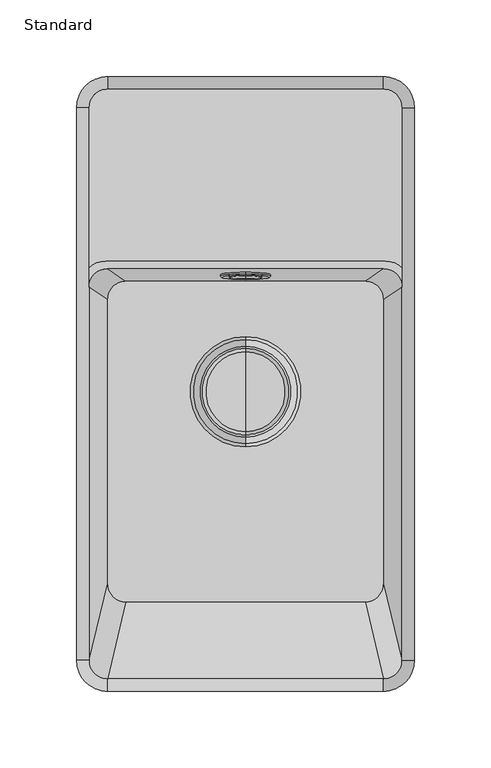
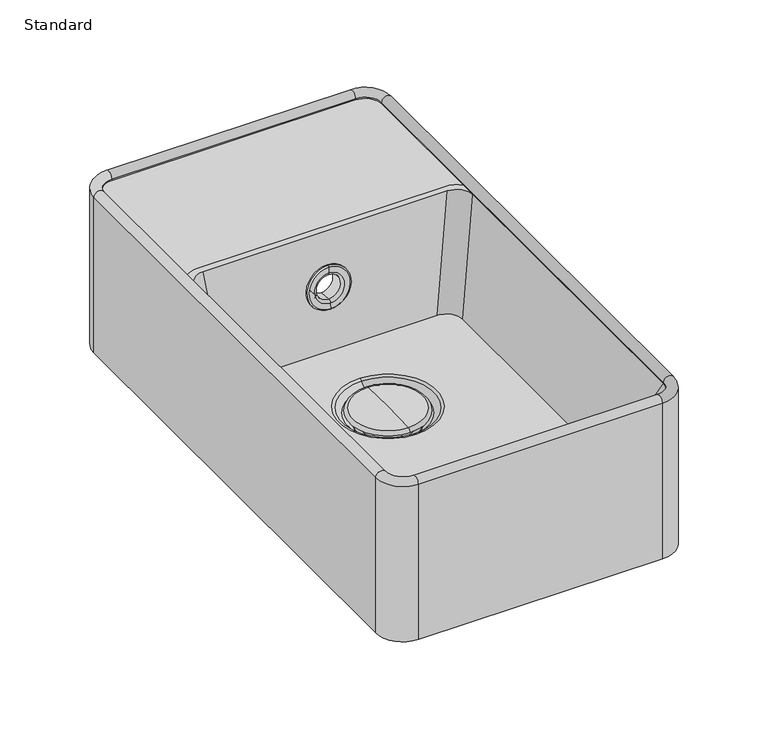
"""IFC4 building model written with IfcOpenShell, lengths in millimetres: flow terminal geometry, Basin-Above Counter-Duracube-Rectangular-Type 1 : Standard."""

from ifc_helpers import new_model, si_unit, point, frame, origin, place, context, project, spatial, polyline, circle_curve, ellipse_curve, trimmed, source, transform, mapped, element, save
from ifc_brep_helpers import plane_surface, cylinder_surface, revolved_surface, extruded_surface, advanced_brep


def standard_62b3b199(model_context):
    return source(origin(), model_context, "Body", "AdvancedBrep", [
        advanced_brep(
        [(0.0, -15.2373706, 28.6616307), (0.0, 20.2373706, 28.6616307), (0.0, 20.2373706, 17.6329977), (0.0, -15.2373706, 17.6329977), (0.0, 2.5, 17.6329977), (0.0, -25.616346, 28.6616307), (0.0, 30.616346, 28.6616307), (0.0, -23.5200947, 31.0780655), (0.0, 28.5200947, 31.0780655), (0.0, 2.5, 31.9999936)],
        [
            (0, 1, circle_curve(frame((0.0, 2.5, 28.6616307), z_axis=(0.0, 0.0, -1.0), x_axis=(0.0, 1.0, 0.0)), 17.7373706)),
            (1, 2),
            (2, 3, circle_curve(frame((0.0, 2.5, 17.6329977), z_axis=(0.0, 0.0, 1.0), x_axis=(0.0, 1.0, 0.0)), 17.7373706)),
            (3, 0),
            (1, 0, circle_curve(frame((0.0, 2.5, 28.6616307), z_axis=(0.0, 0.0, -1.0), x_axis=(0.0, 1.0, 0.0)), 17.7373706)),
            (3, 2, circle_curve(frame((0.0, 2.5, 17.6329977), z_axis=(0.0, 0.0, 1.0), x_axis=(0.0, 1.0, 0.0)), 17.7373706)),
            (2, 4),
            (4, 3),
            (5, 6, circle_curve(frame((0.0, 2.5, 28.6616307), z_axis=(0.0, 0.0, -1.0), x_axis=(0.0, 1.0, 0.0)), 28.116346)),
            (6, 1),
            (0, 5),
            (6, 5, circle_curve(frame((0.0, 2.5, 28.6616307), z_axis=(0.0, 0.0, -1.0), x_axis=(0.0, 1.0, 0.0)), 28.116346)),
            (7, 8, circle_curve(frame((0.0, 2.5, 31.0780655), z_axis=(0.0, 0.0, -1.0), x_axis=(0.0, 1.0, 0.0)), 26.0200947)),
            (8, 6, circle_curve(frame((0.0, 28.3600029, 28.8217224), z_axis=(-1.0, 0.0, 0.0), x_axis=(0.0, 1.0, 0.0)), 2.2620154)),
            (5, 7, circle_curve(frame((0.0, -23.3600029, 28.8217224), z_axis=(-1.0, 0.0, 0.0), x_axis=(0.0, -1.0, 0.0)), 2.2620154)),
            (8, 7, circle_curve(frame((0.0, 2.5, 31.0780655), z_axis=(0.0, 0.0, -1.0), x_axis=(0.0, 1.0, 0.0)), 26.0200947)),
            (9, 8, circle_curve(frame((0.0, 2.5, -335.6508477), z_axis=(-1.0, 0.0, 0.0), x_axis=(0.0, 1.0, 0.0)), 367.6508413)),
            (7, 9, circle_curve(frame((0.0, 2.5, -335.6508477), z_axis=(-1.0, 0.0, 0.0), x_axis=(0.0, -1.0, 0.0)), 367.6508413)),
        ],
        [
            cylinder_surface(frame((0.0, 2.5, 17.6329977), z_axis=(0.0, 0.0, 1.0), x_axis=(0.0, 1.0, 0.0)), 17.7373706),
            plane_surface(frame((0.0, 2.5, 17.6329977), z_axis=(0.0, 0.0, -1.0), x_axis=(0.0, 1.0, 0.0))),
            plane_surface(frame((0.0, 2.5, 28.6616307), z_axis=(0.0, 0.0, -1.0), x_axis=(0.0, 1.0, 0.0))),
            revolved_surface(trimmed(ellipse_curve(frame((0.0, 28.3600029, 28.8217224), z_axis=(1.0, 0.0, 0.0), x_axis=(0.0, 1.0, 0.0)), 2.2620154, 2.2620154), [point((0.0, 30.616346, 28.6616307))], [point((0.0, 28.5200947, 31.0780655))], True, "CARTESIAN"), (0.0, 2.5, 17.6329977), (0.0, 0.0, 1.0)),
            revolved_surface(trimmed(ellipse_curve(frame((0.0, 2.5, -335.6508477), z_axis=(1.0, 0.0, 0.0), x_axis=(0.0, 1.0, 0.0)), 367.6508413, 367.6508413), [point((0.0, 28.5200947, 31.0780655))], [point((0.0, 2.5, 31.9999936))], True, "CARTESIAN"), (0.0, 2.5, 17.6329977), (0.0, 0.0, 1.0)),
        ],
        [
            (0, [[1, 2, 3, 4]]),
            (0, [[5, -4, 6, -2]]),
            (1, [[-3, 7, 8]]),
            (1, [[-6, -8, -7]]),
            (2, [[9, 10, -1, 11]]),
            (2, [[12, -11, -5, -10]]),
            (3, [[13, 14, -9, 15]]),
            (3, [[16, -15, -12, -14]]),
            (4, [[17, -13, 18]]),
            (4, [[-18, -16, -17]]),
        ],
    ),
        advanced_brep(
        [(0.0, 87.5904727, 66.668558), (0.0, 89.6713533, 89.5582459), (0.0, 89.4658033, 87.2971962), (0.0, 87.7960227, 68.9296077), (0.0, 77.7331529, 67.5646779), (0.0, 79.8140335, 90.4543658), (0.0, 77.2994827, 62.7943059), (0.0, 80.2477036, 95.2247379), (0.0, 76.3688867, 62.8789055), (0.0, 79.3171076, 95.3093375), (0.0, 75.5276448, 63.9464003), (0.0, 78.2971575, 94.411042), (0.0, 75.8964393, 68.0031405), (0.0, 77.9283629, 90.3543018), (0.0, 78.0692972, 69.8138554), (0.0, 79.7390779, 88.1814439)],
        [
            (0, 1, circle_curve(frame((0.0, 88.630913, 78.1134019), z_axis=(0.0, 0.9958932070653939, -0.09053573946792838), x_axis=(0.0, 0.09053573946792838, 0.9958932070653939)), 11.4920394)),
            (1, 2),
            (2, 3, circle_curve(frame((0.0, 88.630913, 78.1134019), z_axis=(0.0, -0.9958932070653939, 0.09053573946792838), x_axis=(0.0, 0.09053573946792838, 0.9958932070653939)), 9.2216657)),
            (3, 0),
            (1, 0, circle_curve(frame((0.0, 88.630913, 78.1134019), z_axis=(0.0, 0.9958932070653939, -0.09053573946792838), x_axis=(0.0, 0.09053573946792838, 0.9958932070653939)), 11.4920394)),
            (3, 2, circle_curve(frame((0.0, 88.630913, 78.1134019), z_axis=(0.0, -0.9958932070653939, 0.09053573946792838), x_axis=(0.0, 0.09053573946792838, 0.9958932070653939)), 9.2216657)),
            (4, 5, circle_curve(frame((0.0, 78.7735932, 79.0095219), z_axis=(0.0, 0.9958932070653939, -0.09053573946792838), x_axis=(0.0, 0.09053573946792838, 0.9958932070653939)), 11.4920394)),
            (5, 1),
            (0, 4),
            (5, 4, circle_curve(frame((0.0, 78.7735932, 79.0095219), z_axis=(0.0, 0.9958932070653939, -0.09053573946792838), x_axis=(0.0, 0.09053573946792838, 0.9958932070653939)), 11.4920394)),
            (6, 7, circle_curve(frame((0.0, 78.7735932, 79.0095219), z_axis=(0.0, 0.9958932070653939, -0.09053573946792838), x_axis=(0.0, 0.09053573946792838, 0.9958932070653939)), 16.2820831)),
            (7, 5),
            (4, 6),
            (7, 6, circle_curve(frame((0.0, 78.7735932, 79.0095219), z_axis=(0.0, 0.9958932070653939, -0.09053573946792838), x_axis=(0.0, 0.09053573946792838, 0.9958932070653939)), 16.2820831)),
            (8, 9, circle_curve(frame((0.0, 77.8429971, 79.0941215), z_axis=(0.0, 0.9958932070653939, -0.09053573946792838), x_axis=(0.0, 0.09053573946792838, 0.9958932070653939)), 16.2820831)),
            (9, 7),
            (6, 8),
            (9, 8, circle_curve(frame((0.0, 77.8429971, 79.0941215), z_axis=(0.0, 0.9958932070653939, -0.09053573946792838), x_axis=(0.0, 0.09053573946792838, 0.9958932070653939)), 16.2820831)),
            (10, 11, circle_curve(frame((0.0, 76.9124011, 79.1787211), z_axis=(0.0, 0.9958932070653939, -0.09053573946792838), x_axis=(0.0, 0.09053573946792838, 0.9958932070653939)), 15.2951348)),
            (11, 9),
            (8, 10),
            (11, 10, circle_curve(frame((0.0, 76.9124011, 79.1787211), z_axis=(0.0, 0.9958932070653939, -0.09053573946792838), x_axis=(0.0, 0.09053573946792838, 0.9958932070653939)), 15.2951348)),
            (12, 13, circle_curve(frame((0.0, 76.9124011, 79.1787211), z_axis=(0.0, 0.9958932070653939, -0.09053573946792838), x_axis=(0.0, 0.09053573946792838, 0.9958932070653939)), 11.2216657)),
            (13, 11),
            (10, 12),
            (13, 12, circle_curve(frame((0.0, 76.9124011, 79.1787211), z_axis=(0.0, 0.9958932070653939, -0.09053573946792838), x_axis=(0.0, 0.09053573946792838, 0.9958932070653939)), 11.2216657)),
            (14, 15, circle_curve(frame((0.0, 78.9041875, 78.9976497), z_axis=(0.0, 0.9958932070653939, -0.09053573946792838), x_axis=(0.0, 0.09053573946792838, 0.9958932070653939)), 9.2216657)),
            (15, 13, circle_curve(frame((0.0, 79.9201493, 90.1732303), z_axis=(-1.0, 0.0, 0.0), x_axis=(0.0, 0.999287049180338, 0.0377543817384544)), 2.0)),
            (12, 14, circle_curve(frame((0.0, 77.8882257, 67.822069), z_axis=(-1.0, 0.0, 0.0), x_axis=(0.0, 0.9760971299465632, -0.21733474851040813)), 2.0)),
            (15, 14, circle_curve(frame((0.0, 78.9041875, 78.9976497), z_axis=(0.0, 0.9958932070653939, -0.09053573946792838), x_axis=(0.0, 0.09053573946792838, 0.9958932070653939)), 9.2216657)),
            (2, 15),
            (14, 3),
        ],
        [
            plane_surface(frame((0.0, 88.630913, 78.1134019), z_axis=(0.0, 0.9958932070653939, -0.09053573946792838), x_axis=(0.0, 0.09053573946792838, 0.9958932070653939))),
            cylinder_surface(frame((0.0, 87.1166876, 78.2510588), z_axis=(0.0, -0.9958932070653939, 0.09053573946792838), x_axis=(0.0, 0.09053573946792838, 0.9958932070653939)), 11.4920394),
            plane_surface(frame((0.0, 78.7735932, 79.0095219), z_axis=(0.0, 0.9958932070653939, -0.09053573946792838), x_axis=(0.0, 0.09053573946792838, 0.9958932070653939))),
            cylinder_surface(frame((0.0, 87.1166876, 78.2510588), z_axis=(0.0, -0.9958932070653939, 0.09053573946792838), x_axis=(0.0, 0.09053573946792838, 0.9958932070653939)), 16.2820831),
            revolved_surface(polyline([(0.0, 79.3171076, 95.3093375), (0.0, 78.2971575, 94.411042)]), (0.0, 87.1166876, 78.2510588), (0.0, -0.9958932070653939, 0.09053573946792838)),
            plane_surface(frame((0.0, 76.9124011, 79.1787211), z_axis=(0.0, -0.9958932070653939, 0.09053573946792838), x_axis=(0.0, 0.09053573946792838, 0.9958932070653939))),
            revolved_surface(trimmed(ellipse_curve(frame((0.0, 79.9201493, 90.1732303), z_axis=(1.0, 0.0, 0.0), x_axis=(0.0, 0.999287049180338, 0.0377543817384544)), 2.0, 2.0), [point((0.0, 77.9283629, 90.3543018))], [point((0.0, 79.7390779, 88.1814439))], True, "CARTESIAN"), (0.0, 87.1166876, 78.2510588), (0.0, -0.9958932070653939, 0.09053573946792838)),
            revolved_surface(polyline([(0.0, 79.73907781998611, 88.18144389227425), (0.0, 89.46580334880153, 87.29719618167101)]), (0.0, 87.1166876, 78.2510588), (0.0, -0.9958932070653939, 0.09053573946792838)),
        ],
        [
            (0, [[1, 2, 3, 4]]),
            (0, [[5, -4, 6, -2]]),
            (1, [[7, 8, -1, 9]]),
            (1, [[10, -9, -5, -8]]),
            (2, [[11, 12, -7, 13]]),
            (2, [[14, -13, -10, -12]]),
            (3, [[15, 16, -11, 17]]),
            (3, [[18, -17, -14, -16]]),
            (4, [[19, 20, -15, 21]]),
            (4, [[22, -21, -18, -20]]),
            (5, [[23, 24, -19, 25]]),
            (5, [[26, -25, -22, -24]]),
            (6, [[27, 28, -23, 29]]),
            (6, [[30, -29, -26, -28]]),
            (7, [[-3, 31, -27, 32]]),
            (7, [[-6, -32, -30, -31]]),
        ],
    ),
        advanced_brep(
        [(-90.0, -122.5, 31.9999936), (-102.0, -172.5, 120.0), (-90.0, -184.5, 120.0), (-78.0, -134.5, 31.9999936), (90.0, -184.5, 120.0), (78.0, -134.5, 31.9999936), (102.0, -172.5, 120.0), (90.0, -122.5, 31.9999936), (102.0, 70.5, 120.0), (90.0, 62.5, 31.9999936), (-90.0, 62.5, 31.9999936), (-102.0, 70.5, 120.0), (90.0, 82.5, 120.0), (78.0, 74.5, 31.9999936), (-90.0, 82.5, 120.0), (-78.0, 74.5, 31.9999936), (0.0, 77.9387028, 69.8257276), (0.0, 79.6084835, 88.1933161), (-107.0462735, -174.2507185, 120.0), (-91.0462735, -190.2507185, 120.0), (91.0462735, -190.2507185, 120.0), (107.0462735, -174.2507185, 120.0), (107.0462735, 71.5206186, 120.0), (91.0462735, 87.5206186, 120.0), (-91.0462735, 87.5206186, 120.0), (-107.0462735, 71.5206186, 120.0), (-95.0462735, -124.2507185, 31.9999936), (-95.0462735, 63.5206186, 31.9999936), (-79.0462735, 79.5206186, 31.9999936), (79.0462735, 79.5206186, 31.9999936), (95.0462735, 63.5206186, 31.9999936), (95.0462735, -124.2507185, 31.9999936), (79.0462735, -140.2507185, 31.9999936), (-79.0462735, -140.2507185, 31.9999936), (0.0, 84.5879495, 87.7406374), (0.0, 82.9181689, 69.3730489)],
        [
            (0, 1),
            (1, 2, circle_curve(frame((-90.0, -172.5, 120.0), z_axis=(0.0, 0.0, 1.0), x_axis=(1.0, 0.0, 0.0)), 12.0)),
            (2, 3),
            (3, 0, circle_curve(frame((-78.0, -122.5, 31.9999936), z_axis=(0.0, 0.0, -1.0), x_axis=(1.0, 0.0, 0.0)), 12.0)),
            (2, 4),
            (4, 5),
            (5, 3),
            (4, 6, circle_curve(frame((90.0, -172.5, 120.0), z_axis=(0.0, 0.0, 1.0), x_axis=(1.0, 0.0, 0.0)), 12.0)),
            (6, 7),
            (7, 5, circle_curve(frame((78.0, -122.5, 31.9999936), z_axis=(0.0, 0.0, -1.0), x_axis=(1.0, 0.0, 0.0)), 12.0)),
            (6, 8),
            (8, 9),
            (9, 7),
            (0, 10),
            (10, 11),
            (11, 1),
            (8, 12, circle_curve(frame((90.0, 70.5, 120.0), z_axis=(0.0, 0.0, 1.0), x_axis=(1.0, 0.0, 0.0)), 12.0)),
            (12, 13),
            (13, 9, circle_curve(frame((78.0, 62.5, 31.9999936), z_axis=(0.0, 0.0, -1.0), x_axis=(1.0, 0.0, 0.0)), 12.0)),
            (12, 14),
            (14, 15),
            (15, 13),
            (16, 17, circle_curve(frame((0.0, 78.7735932, 79.0095219), z_axis=(0.0, 0.9958932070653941, -0.09053573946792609), x_axis=(0.0, 0.09053573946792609, 0.9958932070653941)), 9.2216657)),
            (17, 16, circle_curve(frame((0.0, 78.7735932, 79.0095219), z_axis=(0.0, 0.9958932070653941, -0.09053573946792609), x_axis=(0.0, 0.09053573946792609, 0.9958932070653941)), 9.2216657)),
            (10, 15, circle_curve(frame((-78.0, 62.5, 31.9999936), z_axis=(0.0, 0.0, -1.0), x_axis=(1.0, 0.0, 0.0)), 12.0)),
            (14, 11, circle_curve(frame((-90.0, 70.5, 120.0), z_axis=(0.0, 0.0, 1.0), x_axis=(1.0, 0.0, 0.0)), 12.0)),
            (18, 19, circle_curve(frame((-91.0462735, -174.2507185, 120.0), z_axis=(0.0, 0.0, 1.0), x_axis=(1.0, 0.0, 0.0)), 16.0)),
            (19, 20),
            (20, 21, circle_curve(frame((91.0462735, -174.2507185, 120.0), z_axis=(0.0, 0.0, 1.0), x_axis=(1.0, 0.0, 0.0)), 16.0)),
            (21, 22),
            (22, 23, circle_curve(frame((91.0462735, 71.5206186, 120.0), z_axis=(0.0, 0.0, 1.0), x_axis=(1.0, 0.0, 0.0)), 16.0)),
            (23, 24),
            (24, 25, circle_curve(frame((-91.0462735, 71.5206186, 120.0), z_axis=(0.0, 0.0, 1.0), x_axis=(1.0, 0.0, 0.0)), 16.0)),
            (25, 18),
            (26, 27),
            (27, 28, circle_curve(frame((-79.0462735, 63.5206186, 31.9999936), z_axis=(0.0, 0.0, -1.0), x_axis=(1.0, 0.0, 0.0)), 16.0)),
            (28, 29),
            (29, 30, circle_curve(frame((79.0462735, 63.5206186, 31.9999936), z_axis=(0.0, 0.0, -1.0), x_axis=(1.0, 0.0, 0.0)), 16.0)),
            (30, 31),
            (31, 32, circle_curve(frame((79.0462735, -124.2507185, 31.9999936), z_axis=(0.0, 0.0, -1.0), x_axis=(1.0, 0.0, 0.0)), 16.0)),
            (32, 33),
            (33, 26, circle_curve(frame((-79.0462735, -124.2507185, 31.9999936), z_axis=(0.0, 0.0, -1.0), x_axis=(1.0, 0.0, 0.0)), 16.0)),
            (18, 26),
            (33, 19),
            (32, 20),
            (31, 21),
            (30, 22),
            (25, 27),
            (29, 23),
            (28, 24),
            (34, 35, circle_curve(frame((0.0, 83.7530592, 78.5568432), z_axis=(0.0, -0.9958932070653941, 0.09053573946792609), x_axis=(0.0, 0.09053573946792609, 0.9958932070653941)), 9.2216657)),
            (35, 34, circle_curve(frame((0.0, 83.7530592, 78.5568432), z_axis=(0.0, -0.9958932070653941, 0.09053573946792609), x_axis=(0.0, 0.09053573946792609, 0.9958932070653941)), 9.2216657)),
            (16, 35),
            (34, 17),
        ],
        [
            extruded_surface(trimmed(circle_curve(frame((-90.0, -172.5, 120.0), z_axis=(0.0, 0.0, 1.0), x_axis=(1.0, 0.0, 0.0)), 12.0), [point((-102.0, -172.5, 120.0))], [point((-90.0, -184.5, 120.0))], True, "CARTESIAN"), (12.0, 50.0, -88.0000064), 101.92154397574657),
            plane_surface(frame((0.0, -134.5, 31.9999936), z_axis=(0.0, 0.8694565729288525, 0.49400938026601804), x_axis=(1.0, 0.0, 0.0))),
            extruded_surface(trimmed(circle_curve(frame((90.0, -172.5, 120.0), z_axis=(0.0, 0.0, 1.0), x_axis=(1.0, 0.0, 0.0)), 12.0), [point((90.0, -184.5, 120.0))], [point((102.0, -172.5, 120.0))], True, "CARTESIAN"), (-12.0, 50.0, -88.0000064), 101.92154397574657),
            plane_surface(frame((90.0, -30.0, 31.9999936), z_axis=(-0.9908301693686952, 0.0, 0.1351131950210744), x_axis=(0.0, 1.0, 0.0))),
            plane_surface(frame((-90.0, -30.0, 31.9999936), z_axis=(0.9908301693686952, 0.0, 0.1351131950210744), x_axis=(0.0, -1.0, 0.0))),
            extruded_surface(trimmed(circle_curve(frame((90.0, 70.5, 120.0), z_axis=(0.0, 0.0, 1.0), x_axis=(1.0, 0.0, 0.0)), 12.0), [point((102.0, 70.5, 120.0))], [point((90.0, 82.5, 120.0))], True, "CARTESIAN"), (-12.0, -8.0, -88.0000064), 89.17399355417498),
            plane_surface(frame((0.0, 74.5, 31.9999936), z_axis=(0.0, -0.9958932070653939, 0.09053573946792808), x_axis=(-1.0, 0.0, 0.0))),
            extruded_surface(trimmed(circle_curve(frame((-90.0, 70.5, 120.0), z_axis=(0.0, 0.0, 1.0), x_axis=(1.0, 0.0, 0.0)), 12.0), [point((-90.0, 82.5, 120.0))], [point((-102.0, 70.5, 120.0))], True, "CARTESIAN"), (12.0, -8.0, -88.0000064), 89.17399355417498),
            plane_surface(frame((0.0, -51.3650499, 120.0), z_axis=(0.0, 0.0, 1.0), x_axis=(0.0, -1.0, 0.0))),
            plane_surface(frame((0.0, -30.3650499, 31.9999936), z_axis=(0.0, 0.0, -1.0), x_axis=(0.0, -1.0, 0.0))),
            extruded_surface(trimmed(circle_curve(frame((-79.0462735, -124.2507185, 31.9999936), z_axis=(0.0, 0.0, 1.0), x_axis=(1.0, 0.0, 0.0)), 16.0), [point((-95.0462735, -124.2507185, 31.9999936))], [point((-79.0462735, -140.2507185, 31.9999936))], True, "CARTESIAN"), (-12.0, -50.0, 88.0000064), 101.92154397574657),
            plane_surface(frame((0.0, -140.2507185, 31.9999936), z_axis=(0.0, -0.8694565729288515, -0.49400938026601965), x_axis=(1.0, 0.0, 0.0))),
            extruded_surface(trimmed(circle_curve(frame((79.0462735, -124.2507185, 31.9999936), z_axis=(0.0, 0.0, 1.0), x_axis=(1.0, 0.0, 0.0)), 16.0), [point((79.0462735, -140.2507185, 31.9999936))], [point((95.0462735, -124.2507185, 31.9999936))], True, "CARTESIAN"), (12.0, -50.0, 88.0000064), 101.92154397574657),
            plane_surface(frame((95.0462735, -30.3650499, 31.9999936), z_axis=(0.990830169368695, 0.0, -0.13511319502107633), x_axis=(0.0, 1.0, 0.0))),
            plane_surface(frame((-95.0462735, -30.3650499, 31.9999936), z_axis=(-0.9908301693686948, 0.0, -0.13511319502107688), x_axis=(0.0, -1.0, 0.0))),
            extruded_surface(trimmed(circle_curve(frame((79.0462735, 63.5206186, 31.9999936), z_axis=(0.0, 0.0, 1.0), x_axis=(1.0, 0.0, 0.0)), 16.0), [point((95.0462735, 63.5206186, 31.9999936))], [point((79.0462735, 79.5206186, 31.9999936))], True, "CARTESIAN"), (12.0, 8.000000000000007, 88.0000064), 89.17399355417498),
            plane_surface(frame((0.0, 79.5206186, 31.9999936), z_axis=(0.0, 0.9958932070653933, -0.09053573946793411), x_axis=(-1.0, 0.0, 0.0))),
            extruded_surface(trimmed(circle_curve(frame((-79.0462735, 63.5206186, 31.9999936), z_axis=(0.0, 0.0, 1.0), x_axis=(1.0, 0.0, 0.0)), 16.0), [point((-79.0462735, 79.5206186, 31.9999936))], [point((-95.0462735, 63.5206186, 31.9999936))], True, "CARTESIAN"), (-12.0, 8.000000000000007, 88.0000064), 89.17399355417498),
            revolved_surface(polyline([(0.0, 79.60848344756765, 88.19331606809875), (0.0, 84.58794954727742, 87.74063736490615)]), (0.0, 92.9729171, 77.7186743), (0.0, -0.9958932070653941, 0.09053573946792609)),
        ],
        [
            (0, [[1, 2, 3, 4]]),
            (1, [[-3, 5, 6, 7]]),
            (2, [[-6, 8, 9, 10]]),
            (3, [[-9, 11, 12, 13]]),
            (4, [[-1, 14, 15, 16]]),
            (5, [[-12, 17, 18, 19]]),
            (6, [[-18, 20, 21, 22], [23, 24]]),
            (7, [[-15, 25, -21, 26]]),
            (8, [[27, 28, 29, 30, 31, 32, 33, 34], [-2, -16, -26, -20, -17, -11, -8, -5]]),
            (9, [[35, 36, 37, 38, 39, 40, 41, 42], [-4, -7, -10, -13, -19, -22, -25, -14]]),
            (10, [[-27, 43, -42, 44]]),
            (11, [[-28, -44, -41, 45]]),
            (12, [[-29, -45, -40, 46]]),
            (13, [[-30, -46, -39, 47]]),
            (14, [[-34, 48, -35, -43]]),
            (15, [[-31, -47, -38, 49]]),
            (16, [[-32, -49, -37, 50], [51, 52]]),
            (17, [[-33, -50, -36, -48]]),
            (18, [[53, -51, 54, -23]]),
            (18, [[-53, -24, -54, -52]]),
        ],
    ),
        advanced_brep(
        [(79.0462735, 79.5206186, 31.9999936), (-79.0462735, 79.5206186, 31.9999936), (-95.0462735, 63.5206186, 31.9999936), (-95.0462735, -124.2507185, 31.9999936), (-79.0462735, -140.2507185, 31.9999936), (79.0462735, -140.2507185, 31.9999936), (95.0462735, -124.2507185, 31.9999936), (95.0462735, 63.5206186, 31.9999936), (0.0, -33.4176724, 31.9999936), (0.0, 38.4176724, 31.9999936), (78.3644553, 79.0660732, 26.9999936), (94.3644553, 63.0660732, 26.9999936), (94.3644553, -121.4098096, 26.9999936), (78.3644553, -137.4098096, 26.9999936), (-78.3644553, -137.4098096, 26.9999936), (-94.3644553, -121.4098096, 26.9999936), (-94.3644553, 63.0660732, 26.9999936), (-78.3644553, 79.0660732, 26.9999936), (0.0, 39.2460996, 26.9999936), (0.0, -34.2460996, 26.9999936), (0.0, 36.2963521, 31.1213139), (0.0, -31.2963521, 31.1213139), (0.0, -27.1750317, 26.9999936), (0.0, 32.1750317, 26.9999936), (0.0, -24.5009361, 17.2548301), (0.0, 29.5009361, 17.2548301), (0.0, 29.5009361, -8.6750358), (0.0, -24.5009361, -8.6750358), (0.0, -21.1005425, 20.9255043), (0.0, 26.1005425, 20.9255043), (0.0, -19.5009361, 17.0637129), (0.0, 24.5009361, 17.0637129), (0.0, -19.5009361, -8.6750358), (0.0, 24.5009361, -8.6750358)],
        [
            (0, 1),
            (1, 2, circle_curve(frame((-79.0462735, 63.5206186, 31.9999936), z_axis=(0.0, 0.0, 1.0), x_axis=(1.0, 0.0, 0.0)), 16.0)),
            (2, 3),
            (3, 4, circle_curve(frame((-79.0462735, -124.2507185, 31.9999936), z_axis=(0.0, 0.0, 1.0), x_axis=(1.0, 0.0, 0.0)), 16.0)),
            (4, 5),
            (5, 6, circle_curve(frame((79.0462735, -124.2507185, 31.9999936), z_axis=(0.0, 0.0, 1.0), x_axis=(1.0, 0.0, 0.0)), 16.0)),
            (6, 7),
            (7, 0, circle_curve(frame((79.0462735, 63.5206186, 31.9999936), z_axis=(0.0, 0.0, 1.0), x_axis=(1.0, 0.0, 0.0)), 16.0)),
            (8, 9, circle_curve(frame((0.0, 2.5, 31.9999936), z_axis=(0.0, 0.0, -1.0), x_axis=(0.0, 1.0, 0.0)), 35.9176724)),
            (9, 8, circle_curve(frame((0.0, 2.5, 31.9999936), z_axis=(0.0, 0.0, -1.0), x_axis=(0.0, 1.0, 0.0)), 35.9176724)),
            (10, 11, circle_curve(frame((78.3644553, 63.0660732, 26.9999936), z_axis=(0.0, 0.0, -1.0), x_axis=(1.0, 0.0, 0.0)), 16.0)),
            (11, 12),
            (12, 13, circle_curve(frame((78.3644553, -121.4098096, 26.9999936), z_axis=(0.0, 0.0, -1.0), x_axis=(1.0, 0.0, 0.0)), 16.0)),
            (13, 14),
            (14, 15, circle_curve(frame((-78.3644553, -121.4098096, 26.9999936), z_axis=(0.0, 0.0, -1.0), x_axis=(1.0, 0.0, 0.0)), 16.0)),
            (15, 16),
            (16, 17, circle_curve(frame((-78.3644553, 63.0660732, 26.9999936), z_axis=(0.0, 0.0, -1.0), x_axis=(1.0, 0.0, 0.0)), 16.0)),
            (17, 10),
            (18, 19, circle_curve(frame((0.0, 2.5, 26.9999936), z_axis=(0.0, 0.0, 1.0), x_axis=(0.0, 1.0, 0.0)), 36.7460996)),
            (19, 18, circle_curve(frame((0.0, 2.5, 26.9999936), z_axis=(0.0, 0.0, 1.0), x_axis=(0.0, 1.0, 0.0)), 36.7460996)),
            (0, 10),
            (17, 1),
            (16, 2),
            (15, 3),
            (14, 4),
            (13, 5),
            (12, 6),
            (11, 7),
            (20, 21, circle_curve(frame((0.0, 2.5, 31.1213139), z_axis=(0.0, 0.0, 1.0), x_axis=(0.0, 1.0, 0.0)), 33.7963521)),
            (21, 22),
            (22, 23, circle_curve(frame((0.0, 2.5, 26.9999936), z_axis=(0.0, 0.0, -1.0), x_axis=(0.0, 1.0, 0.0)), 29.6750317)),
            (23, 20),
            (21, 20, circle_curve(frame((0.0, 2.5, 31.1213139), z_axis=(0.0, 0.0, 1.0), x_axis=(0.0, 1.0, 0.0)), 33.7963521)),
            (23, 22, circle_curve(frame((0.0, 2.5, 26.9999936), z_axis=(0.0, 0.0, -1.0), x_axis=(0.0, 1.0, 0.0)), 29.6750317)),
            (20, 9, circle_curve(frame((0.0, 38.4176724, 28.9999936), z_axis=(-1.0, 0.0, 0.0), x_axis=(0.0, 1.0, 0.0)), 3.0)),
            (8, 21, circle_curve(frame((0.0, -33.4176724, 28.9999936), z_axis=(-1.0, 0.0, 0.0), x_axis=(0.0, -1.0, 0.0)), 3.0)),
            (24, 25, circle_curve(frame((0.0, 2.5, 17.2548301), z_axis=(0.0, 0.0, -1.0), x_axis=(0.0, 1.0, 0.0)), 27.0009361)),
            (25, 26),
            (26, 27, circle_curve(frame((0.0, 2.5, -8.6750358), z_axis=(0.0, 0.0, 1.0), x_axis=(0.0, 1.0, 0.0)), 27.0009361)),
            (27, 24),
            (25, 24, circle_curve(frame((0.0, 2.5, 17.2548301), z_axis=(0.0, 0.0, -1.0), x_axis=(0.0, 1.0, 0.0)), 27.0009361)),
            (27, 26, circle_curve(frame((0.0, 2.5, -8.6750358), z_axis=(0.0, 0.0, 1.0), x_axis=(0.0, 1.0, 0.0)), 27.0009361)),
            (24, 19),
            (18, 25),
            (28, 29, circle_curve(frame((0.0, 2.5, 20.9255043), z_axis=(0.0, 0.0, -1.0), x_axis=(0.0, 1.0, 0.0)), 23.6005425)),
            (29, 23),
            (22, 28),
            (29, 28, circle_curve(frame((0.0, 2.5, 20.9255043), z_axis=(0.0, 0.0, -1.0), x_axis=(0.0, 1.0, 0.0)), 23.6005425)),
            (28, 30, circle_curve(frame((0.0, -24.9623339, 17.0637129), z_axis=(-1.0, 0.0, 0.0), x_axis=(0.0, -1.0, 0.0)), 5.4613978)),
            (30, 31, circle_curve(frame((0.0, 2.5, 17.0637129), z_axis=(0.0, 0.0, -1.0), x_axis=(0.0, 1.0, 0.0)), 22.0009361)),
            (31, 29, circle_curve(frame((0.0, 29.9623339, 17.0637129), z_axis=(-1.0, 0.0, 0.0), x_axis=(0.0, 1.0, 0.0)), 5.4613978)),
            (31, 30, circle_curve(frame((0.0, 2.5, 17.0637129), z_axis=(0.0, 0.0, -1.0), x_axis=(0.0, 1.0, 0.0)), 22.0009361)),
            (30, 32),
            (32, 33, circle_curve(frame((0.0, 2.5, -8.6750358), z_axis=(0.0, 0.0, -1.0), x_axis=(0.0, 1.0, 0.0)), 22.0009361)),
            (33, 31),
            (33, 32, circle_curve(frame((0.0, 2.5, -8.6750358), z_axis=(0.0, 0.0, -1.0), x_axis=(0.0, 1.0, 0.0)), 22.0009361)),
            (26, 33),
            (32, 27),
        ],
        [
            plane_surface(frame((0.0, -30.3650499, 31.9999936), z_axis=(0.0, 0.0, 1.0), x_axis=(1.0, 0.0, 0.0))),
            plane_surface(frame((0.0, -29.1718682, 26.9999936), z_axis=(0.0, 0.0, -1.0), x_axis=(1.0, 0.0, 0.0))),
            plane_surface(frame((0.0, 79.0660732, 26.9999936), z_axis=(0.0, 0.9958932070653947, -0.09053573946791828), x_axis=(-1.0, 0.0, 0.0))),
            extruded_surface(trimmed(circle_curve(frame((-78.3644553, 63.0660732, 26.9999936), z_axis=(0.0, 0.0, 1.0), x_axis=(1.0, 0.0, 0.0)), 16.0), [point((-78.3644553, 79.0660732, 26.9999936))], [point((-94.3644553, 63.0660732, 26.9999936))], True, "CARTESIAN"), (-0.681818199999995, 0.45454540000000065, 5.0), 5.066703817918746),
            plane_surface(frame((-94.3644553, -29.1718682, 26.9999936), z_axis=(-0.990830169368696, 0.0, -0.1351131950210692), x_axis=(0.0, -1.0, 0.0))),
            extruded_surface(trimmed(circle_curve(frame((-78.3644553, -121.4098096, 26.9999936), z_axis=(0.0, 0.0, 1.0), x_axis=(1.0, 0.0, 0.0)), 16.0), [point((-94.3644553, -121.4098096, 26.9999936))], [point((-78.3644553, -137.4098096, 26.9999936))], True, "CARTESIAN"), (-0.681818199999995, -2.8409089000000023, 5.0), 5.790996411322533),
            plane_surface(frame((0.0, -137.4098096, 26.9999936), z_axis=(0.0, -0.8694565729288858, -0.49400938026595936), x_axis=(1.0, 0.0, 0.0))),
            extruded_surface(trimmed(circle_curve(frame((78.3644553, -121.4098096, 26.9999936), z_axis=(0.0, 0.0, 1.0), x_axis=(1.0, 0.0, 0.0)), 16.0), [point((78.3644553, -137.4098096, 26.9999936))], [point((94.3644553, -121.4098096, 26.9999936))], True, "CARTESIAN"), (0.681818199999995, -2.8409089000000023, 5.0), 5.790996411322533),
            plane_surface(frame((94.3644553, -29.1718682, 26.9999936), z_axis=(0.990830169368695, 0.0, -0.13511319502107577), x_axis=(0.0, 1.0, 0.0))),
            extruded_surface(trimmed(circle_curve(frame((78.3644553, 63.0660732, 26.9999936), z_axis=(0.0, 0.0, 1.0), x_axis=(1.0, 0.0, 0.0)), 16.0), [point((94.3644553, 63.0660732, 26.9999936))], [point((78.3644553, 79.0660732, 26.9999936))], True, "CARTESIAN"), (0.681818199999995, 0.45454540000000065, 5.0), 5.066703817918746),
            revolved_surface(polyline([(0.0, 36.2963521, 31.1213139), (0.0, 26.1005425, 20.9255043)]), (0.0, 2.5, -15.6750069), (0.0, 0.0, 1.0)),
            revolved_surface(trimmed(ellipse_curve(frame((0.0, 38.4176724, 28.9999936), z_axis=(1.0, 0.0, 0.0), x_axis=(0.0, 1.0, 0.0)), 3.0, 3.0), [point((0.0, 38.4176724, 31.9999936))], [point((0.0, 36.2963521, 31.1213139))], True, "CARTESIAN"), (0.0, 2.5, -15.6750069), (0.0, 0.0, 1.0)),
            cylinder_surface(frame((0.0, 2.5, -15.6750069), z_axis=(0.0, 0.0, 1.0), x_axis=(0.0, 1.0, 0.0)), 27.0009361),
            revolved_surface(polyline([(0.0, 29.5009361, 17.2548301), (0.0, 39.2460996, 26.9999936)]), (0.0, 2.5, -15.6750069), (0.0, 0.0, 1.0)),
            revolved_surface(trimmed(ellipse_curve(frame((0.0, 29.9623339, 17.0637129), z_axis=(1.0, 0.0, 0.0), x_axis=(0.0, 1.0, 0.0)), 5.4613978, 5.4613978), [point((0.0, 26.1005425, 20.9255043))], [point((0.0, 24.5009361, 17.0637129))], True, "CARTESIAN"), (0.0, 2.5, -15.6750069), (0.0, 0.0, 1.0)),
            revolved_surface(polyline([(0.0, 24.5009361, 17.0637129), (0.0, 24.5009361, -8.6750358)]), (0.0, 2.5, -15.6750069), (0.0, 0.0, 1.0)),
            plane_surface(frame((0.0, 2.5, -8.6750358), z_axis=(0.0, 0.0, -1.0), x_axis=(0.0, 1.0, 0.0))),
        ],
        [
            (0, [[1, 2, 3, 4, 5, 6, 7, 8], [9, 10]]),
            (1, [[11, 12, 13, 14, 15, 16, 17, 18], [19, 20]]),
            (2, [[-1, 21, -18, 22]]),
            (3, [[-2, -22, -17, 23]]),
            (4, [[-3, -23, -16, 24]]),
            (5, [[-4, -24, -15, 25]]),
            (6, [[-5, -25, -14, 26]]),
            (7, [[-6, -26, -13, 27]]),
            (8, [[-7, -27, -12, 28]]),
            (9, [[-8, -28, -11, -21]]),
            (10, [[29, 30, 31, 32]]),
            (10, [[33, -32, 34, -30]]),
            (11, [[-29, 35, -9, 36]]),
            (11, [[-33, -36, -10, -35]]),
            (12, [[37, 38, 39, 40]]),
            (12, [[-38, 41, -40, 42]]),
            (13, [[-37, 43, -19, 44]]),
            (13, [[-41, -44, -20, -43]]),
            (10, [[45, 46, -31, 47]]),
            (10, [[48, -47, -34, -46]]),
            (14, [[-45, 49, 50, 51]]),
            (14, [[-48, -51, 52, -49]]),
            (15, [[-50, 53, 54, 55]]),
            (15, [[-52, -55, 56, -53]]),
            (16, [[-39, 57, -54, 58]]),
            (16, [[-42, -58, -56, -57]]),
        ],
    ),
        advanced_brep(
        [(-102.0, 70.5, 120.0), (-90.0, 82.5, 120.0), (90.0, 82.5, 120.0), (102.0, 70.5, 120.0), (102.0, 187.5, 120.0), (90.0, 199.5, 120.0), (-90.0, 199.5, 120.0), (-102.0, 187.5, 120.0), (102.0, 70.5, 115.0), (90.0, 82.5, 115.0), (-90.0, 82.5, 115.0), (-102.0, 70.5, 115.0), (-102.0, 187.5, 115.0), (-90.0, 199.5, 115.0), (90.0, 199.5, 115.0), (102.0, 187.5, 115.0), (-110.0, -172.5, 1.72e-05), (-110.0, 187.5, 1.72e-05), (-90.0, 207.5, 1.72e-05), (90.0, 207.5, 1.72e-05), (110.0, 187.5, 1.72e-05), (110.0, -172.5, 1.72e-05), (90.0, -192.5, 1.72e-05), (-90.0, -192.5, 1.72e-05), (90.0, 199.5, 1.72e-05), (-90.0, 199.5, 1.72e-05), (-102.0, 187.5, 1.72e-05), (-102.0, -172.5, 1.72e-05), (-90.0, -184.5, 1.72e-05), (90.0, -184.5, 1.72e-05), (102.0, -172.5, 1.72e-05), (102.0, 187.5, 1.72e-05), (90.0, 207.5, 121.0), (110.0, 187.5, 121.0), (102.0, 187.5, 121.0), (90.0, 199.5, 121.0), (110.0, -172.5, 121.0), (102.0, -172.5, 121.0), (90.0, -192.5, 121.0), (90.0, -184.5, 121.0), (-90.0, -192.5, 121.0), (-90.0, -184.5, 121.0), (-110.0, -172.5, 121.0), (-102.0, -172.5, 121.0), (-110.0, 187.5, 121.0), (-102.0, 187.5, 121.0), (-90.0, 207.5, 121.0), (-90.0, 199.5, 121.0)],
        [
            (0, 1, circle_curve(frame((-90.0, 70.5, 120.0), z_axis=(0.0, 0.0, -1.0), x_axis=(1.0, 0.0, 0.0)), 12.0)),
            (1, 2),
            (2, 3, circle_curve(frame((90.0, 70.5, 120.0), z_axis=(0.0, 0.0, -1.0), x_axis=(1.0, 0.0, 0.0)), 12.0)),
            (3, 4),
            (4, 5, circle_curve(frame((90.0, 187.5, 120.0), z_axis=(0.0, 0.0, 1.0), x_axis=(0.0, 1.0, 0.0)), 12.0)),
            (5, 6),
            (6, 7, circle_curve(frame((-90.0, 187.5, 120.0), z_axis=(0.0, 0.0, 1.0), x_axis=(-1.0, 0.0, 0.0)), 12.0)),
            (7, 0),
            (8, 9, circle_curve(frame((90.0, 70.5, 115.0), z_axis=(0.0, 0.0, 1.0), x_axis=(1.0, 0.0, 0.0)), 12.0)),
            (9, 10),
            (10, 11, circle_curve(frame((-90.0, 70.5, 115.0), z_axis=(0.0, 0.0, 1.0), x_axis=(1.0, 0.0, 0.0)), 12.0)),
            (11, 12),
            (12, 13, circle_curve(frame((-90.0, 187.5, 115.0), z_axis=(0.0, 0.0, -1.0), x_axis=(-1.0, 0.0, 0.0)), 12.0)),
            (13, 14),
            (14, 15, circle_curve(frame((90.0, 187.5, 115.0), z_axis=(0.0, 0.0, -1.0), x_axis=(0.0, 1.0, 0.0)), 12.0)),
            (15, 8),
            (16, 17),
            (17, 18, circle_curve(frame((-90.0, 187.5, 1.72e-05), z_axis=(0.0, 0.0, -1.0), x_axis=(-1.0, 0.0, 0.0)), 20.0)),
            (18, 19),
            (19, 20, circle_curve(frame((90.0, 187.5, 1.72e-05), z_axis=(0.0, 0.0, -1.0), x_axis=(0.0, 1.0, 0.0)), 20.0)),
            (20, 21),
            (21, 22, circle_curve(frame((90.0, -172.5, 1.72e-05), z_axis=(0.0, 0.0, -1.0), x_axis=(1.0, 0.0, 0.0)), 20.0)),
            (22, 23),
            (23, 16, circle_curve(frame((-90.0, -172.5, 1.72e-05), z_axis=(0.0, 0.0, -1.0), x_axis=(0.0, -1.0, 0.0)), 20.0)),
            (24, 25),
            (25, 26, circle_curve(frame((-90.0, 187.5, 1.72e-05), z_axis=(0.0, 0.0, 1.0), x_axis=(-1.0, 0.0, 0.0)), 12.0)),
            (26, 27),
            (27, 28, circle_curve(frame((-90.0, -172.5, 1.72e-05), z_axis=(0.0, 0.0, 1.0), x_axis=(0.0, -1.0, 0.0)), 12.0)),
            (28, 29),
            (29, 30, circle_curve(frame((90.0, -172.5, 1.72e-05), z_axis=(0.0, 0.0, 1.0), x_axis=(1.0, 0.0, 0.0)), 12.0)),
            (30, 31),
            (31, 24, circle_curve(frame((90.0, 187.5, 1.72e-05), z_axis=(0.0, 0.0, 1.0), x_axis=(0.0, 1.0, 0.0)), 12.0)),
            (19, 32),
            (32, 33, circle_curve(frame((90.0, 187.5, 121.0), z_axis=(0.0, 0.0, -1.0), x_axis=(0.0, 1.0, 0.0)), 20.0)),
            (33, 20),
            (31, 15),
            (14, 24),
            (34, 35, circle_curve(frame((90.0, 187.5, 121.0), z_axis=(0.0, 0.0, 1.0), x_axis=(0.0, 1.0, 0.0)), 12.0)),
            (35, 5),
            (4, 34),
            (33, 36),
            (36, 21),
            (30, 37),
            (37, 34),
            (3, 8),
            (36, 38, circle_curve(frame((90.0, -172.5, 121.0), z_axis=(0.0, 0.0, -1.0), x_axis=(1.0, 0.0, 0.0)), 20.0)),
            (38, 22),
            (29, 39),
            (39, 37, circle_curve(frame((90.0, -172.5, 121.0), z_axis=(0.0, 0.0, 1.0), x_axis=(1.0, 0.0, 0.0)), 12.0)),
            (38, 40),
            (40, 23),
            (28, 41),
            (41, 39),
            (40, 42, circle_curve(frame((-90.0, -172.5, 121.0), z_axis=(0.0, 0.0, -1.0), x_axis=(0.0, -1.0, 0.0)), 20.0)),
            (42, 16),
            (27, 43),
            (43, 41, circle_curve(frame((-90.0, -172.5, 121.0), z_axis=(0.0, 0.0, 1.0), x_axis=(0.0, -1.0, 0.0)), 12.0)),
            (42, 44),
            (44, 17),
            (26, 12),
            (11, 0),
            (7, 45),
            (45, 43),
            (44, 46, circle_curve(frame((-90.0, 187.5, 121.0), z_axis=(0.0, 0.0, -1.0), x_axis=(-1.0, 0.0, 0.0)), 20.0)),
            (46, 18),
            (25, 13),
            (47, 45, circle_curve(frame((-90.0, 187.5, 121.0), z_axis=(0.0, 0.0, 1.0), x_axis=(-1.0, 0.0, 0.0)), 12.0)),
            (6, 47),
            (46, 32),
            (35, 47),
            (32, 35, circle_curve(frame((90.0, 203.5, 121.0), z_axis=(1.0, 0.0, 0.0), x_axis=(0.0, 1.0, 0.0)), 4.0)),
            (34, 33, circle_curve(frame((106.0, 187.5, 121.0), z_axis=(0.0, 1.0, 0.0), x_axis=(1.0, 0.0, 0.0)), 4.0)),
            (37, 36, circle_curve(frame((106.0, -172.5, 121.0), z_axis=(0.0, 1.0, 0.0), x_axis=(1.0, 0.0, 0.0)), 4.0)),
            (39, 38, circle_curve(frame((90.0, -188.5, 121.0), z_axis=(1.0, 0.0, 0.0), x_axis=(0.0, -1.0, 0.0)), 4.0)),
            (41, 40, circle_curve(frame((-90.0, -188.5, 121.0), z_axis=(1.0, 0.0, 0.0), x_axis=(0.0, -1.0, 0.0)), 4.0)),
            (43, 42, circle_curve(frame((-106.0, -172.5, 121.0), z_axis=(0.0, -1.0, 0.0), x_axis=(-1.0, 0.0, 0.0)), 4.0)),
            (45, 44, circle_curve(frame((-106.0, 187.5, 121.0), z_axis=(0.0, -1.0, 0.0), x_axis=(-1.0, 0.0, 0.0)), 4.0)),
            (47, 46, circle_curve(frame((-90.0, 203.5, 121.0), z_axis=(-1.0, 0.0, 0.0), x_axis=(0.0, 1.0, 0.0)), 4.0)),
            (10, 1),
            (9, 2),
        ],
        [
            plane_surface(frame((-78.0, 187.5, 120.0), z_axis=(0.0, 0.0, 1.0), x_axis=(0.0, 1.0, 0.0))),
            plane_surface(frame((-78.0, 187.5, 115.0), z_axis=(0.0, 0.0, -1.0), x_axis=(0.0, -1.0, 0.0))),
            plane_surface(frame((-90.0, 207.5, 1.72e-05), z_axis=(0.0, 0.0, -1.0), x_axis=(1.0, 0.0, 0.0))),
            cylinder_surface(frame((90.0, 187.5, 0.0), z_axis=(0.0, 0.0, -1.0), x_axis=(0.0, 1.0, 0.0)), 20.0),
            revolved_surface(polyline([(90.0, 199.5, 1.72e-05), (90.0, 199.5, 115.0)]), (90.0, 187.5, 0.0), (0.0, 0.0, -1.0)),
            revolved_surface(polyline([(90.0, 199.5, 120.0), (90.0, 199.5, 121.0)]), (90.0, 187.5, 0.0), (0.0, 0.0, -1.0)),
            plane_surface(frame((110.0, 187.5, 121.0), z_axis=(1.0, 0.0, 0.0), x_axis=(0.0, -1.0, 0.0))),
            plane_surface(frame((102.0, 187.5, 1.72e-05), z_axis=(-1.0, 0.0, 0.0), x_axis=(0.0, -1.0, 0.0))),
            cylinder_surface(frame((90.0, -172.5, 0.0), z_axis=(0.0, 0.0, -1.0), x_axis=(1.0, 0.0, 0.0)), 20.0),
            revolved_surface(polyline([(102.0, -172.5, 1.72e-05), (102.0, -172.5, 121.0)]), (90.0, -172.5, 0.0), (0.0, 0.0, -1.0)),
            plane_surface(frame((90.0, -192.5, 121.0), z_axis=(0.0, -1.0, 0.0), x_axis=(-1.0, 0.0, 0.0))),
            plane_surface(frame((90.0, -184.5, 1.72e-05), z_axis=(0.0, 1.0, 0.0), x_axis=(-1.0, 0.0, 0.0))),
            cylinder_surface(frame((-90.0, -172.5, 0.0), z_axis=(0.0, 0.0, -1.0), x_axis=(0.0, -1.0, 0.0)), 20.0),
            revolved_surface(polyline([(-90.0, -184.5, 1.72e-05), (-90.0, -184.5, 121.0)]), (-90.0, -172.5, 0.0), (0.0, 0.0, -1.0)),
            plane_surface(frame((-110.0, -172.5, 121.0), z_axis=(-1.0, 0.0, 0.0), x_axis=(0.0, 1.0, 0.0))),
            plane_surface(frame((-102.0, -172.5, 1.72e-05), z_axis=(1.0, 0.0, 0.0), x_axis=(0.0, 1.0, 0.0))),
            cylinder_surface(frame((-90.0, 187.5, 0.0), z_axis=(0.0, 0.0, -1.0), x_axis=(-1.0, 0.0, 0.0)), 20.0),
            revolved_surface(polyline([(-102.0, 187.5, 1.72e-05), (-102.0, 187.5, 115.0)]), (-90.0, 187.5, 0.0), (0.0, 0.0, -1.0)),
            revolved_surface(polyline([(-102.0, 187.5, 120.0), (-102.0, 187.5, 121.0)]), (-90.0, 187.5, 0.0), (0.0, 0.0, -1.0)),
            plane_surface(frame((-90.0, 207.5, 121.0), z_axis=(0.0, 1.0, 0.0), x_axis=(1.0, 0.0, 0.0))),
            plane_surface(frame((-90.0, 199.5, 1.72e-05), z_axis=(0.0, -1.0, 0.0), x_axis=(1.0, 0.0, 0.0))),
            revolved_surface(trimmed(ellipse_curve(frame((90.0, 203.5, 121.0), z_axis=(-1.0, 0.0, 0.0), x_axis=(0.0, 1.0, 0.0)), 4.0, 4.0), [point((90.0, 199.5, 121.0))], [point((90.0, 207.5, 121.0))], True, "CARTESIAN"), (90.0, 187.5, 0.0), (0.0, 0.0, -1.0)),
            cylinder_surface(frame((106.0, 187.5, 121.0), z_axis=(0.0, 1.0, 0.0), x_axis=(1.0, 0.0, 0.0)), 4.0),
            revolved_surface(trimmed(ellipse_curve(frame((106.0, -172.5, 121.0), z_axis=(0.0, 1.0, 0.0), x_axis=(1.0, 0.0, 0.0)), 4.0, 4.0), [point((102.0, -172.5, 121.0))], [point((110.0, -172.5, 121.0))], True, "CARTESIAN"), (90.0, -172.5, 0.0), (0.0, 0.0, -1.0)),
            cylinder_surface(frame((90.0, -188.5, 121.0), z_axis=(1.0, 0.0, 0.0), x_axis=(0.0, -1.0, 0.0)), 4.0),
            revolved_surface(trimmed(ellipse_curve(frame((-90.0, -188.5, 121.0), z_axis=(1.0, 0.0, 0.0), x_axis=(0.0, -1.0, 0.0)), 4.0, 4.0), [point((-90.0, -184.5, 121.0))], [point((-90.0, -192.5, 121.0))], True, "CARTESIAN"), (-90.0, -172.5, 0.0), (0.0, 0.0, -1.0)),
            cylinder_surface(frame((-106.0, -172.5, 121.0), z_axis=(0.0, -1.0, 0.0), x_axis=(-1.0, 0.0, 0.0)), 4.0),
            revolved_surface(trimmed(ellipse_curve(frame((-106.0, 187.5, 121.0), z_axis=(0.0, -1.0, 0.0), x_axis=(-1.0, 0.0, 0.0)), 4.0, 4.0), [point((-102.0, 187.5, 121.0))], [point((-110.0, 187.5, 121.0))], True, "CARTESIAN"), (-90.0, 187.5, 0.0), (0.0, 0.0, -1.0)),
            cylinder_surface(frame((-90.0, 203.5, 121.0), z_axis=(-1.0, 0.0, 0.0), x_axis=(0.0, 1.0, 0.0)), 4.0),
            revolved_surface(polyline([(-78.0, 70.5, 115.0), (-78.0, 70.5, 120.0)]), (-90.0, 70.5, 115.0), (0.0, 0.0, -1.0)),
            plane_surface(frame((-90.0, 82.5, 120.0), z_axis=(0.0, -1.0, 0.0), x_axis=(0.0, 0.0, -1.0))),
            revolved_surface(polyline([(102.0, 70.5, 115.0), (102.0, 70.5, 120.0)]), (90.0, 70.5, 115.0), (0.0, 0.0, -1.0)),
        ],
        [
            (0, [[1, 2, 3, 4, 5, 6, 7, 8]]),
            (1, [[9, 10, 11, 12, 13, 14, 15, 16]]),
            (2, [[17, 18, 19, 20, 21, 22, 23, 24], [25, 26, 27, 28, 29, 30, 31, 32]]),
            (3, [[-20, 33, 34, 35]]),
            (4, [[-32, 36, -15, 37]]),
            (5, [[38, 39, -5, 40]]),
            (6, [[-21, -35, 41, 42]]),
            (7, [[-31, 43, 44, -40, -4, 45, -16, -36]]),
            (8, [[-22, -42, 46, 47]]),
            (9, [[-30, 48, 49, -43]]),
            (10, [[-23, -47, 50, 51]]),
            (11, [[-29, 52, 53, -48]]),
            (12, [[-24, -51, 54, 55]]),
            (13, [[-28, 56, 57, -52]]),
            (14, [[-17, -55, 58, 59]]),
            (15, [[-27, 60, -12, 61, -8, 62, 63, -56]]),
            (16, [[-18, -59, 64, 65]]),
            (17, [[-26, 66, -13, -60]]),
            (18, [[67, -62, -7, 68]]),
            (19, [[-19, -65, 69, -33]]),
            (20, [[-25, -37, -14, -66]]),
            (20, [[70, -68, -6, -39]]),
            (21, [[-34, 71, -38, 72]]),
            (22, [[-41, -72, -44, 73]]),
            (23, [[-46, -73, -49, 74]]),
            (24, [[-50, -74, -53, 75]]),
            (25, [[-54, -75, -57, 76]]),
            (26, [[-58, -76, -63, 77]]),
            (27, [[-64, -77, -67, 78]]),
            (28, [[-69, -78, -70, -71]]),
            (29, [[-1, -61, -11, 79]]),
            (30, [[-2, -79, -10, 80]]),
            (31, [[-3, -80, -9, -45]]),
        ],
    ),
    ])


if __name__ == "__main__":
    model = new_model("IFC4")
    model_context = context("Model", 3, world=origin())
    ifc_project = project(units=[si_unit("LENGTHUNIT", "METRE", prefix="MILLI")], contexts=[model_context])
    site = spatial("IfcSite", under=ifc_project)
    building = spatial("IfcBuilding", under=site)
    placement = place(None, origin())
    standard_shape = standard_62b3b199(model_context)
    element("IfcFlowTerminal", 1, ObjectType="Basin-Above Counter-Duracube-Rectangular-Type 1 : Standard", at=placement, inside=building, context=model_context, shape_type="MappedRepresentation", body=[
        mapped(standard_shape, transform((0.0, 0.0, 0.0), x_axis=(1.0, 0.0, 0.0), y_axis=(0.0, 1.0, 0.0), z_axis=(0.0, 0.0, 1.0))),
    ])
    save(model, "model.ifc")
